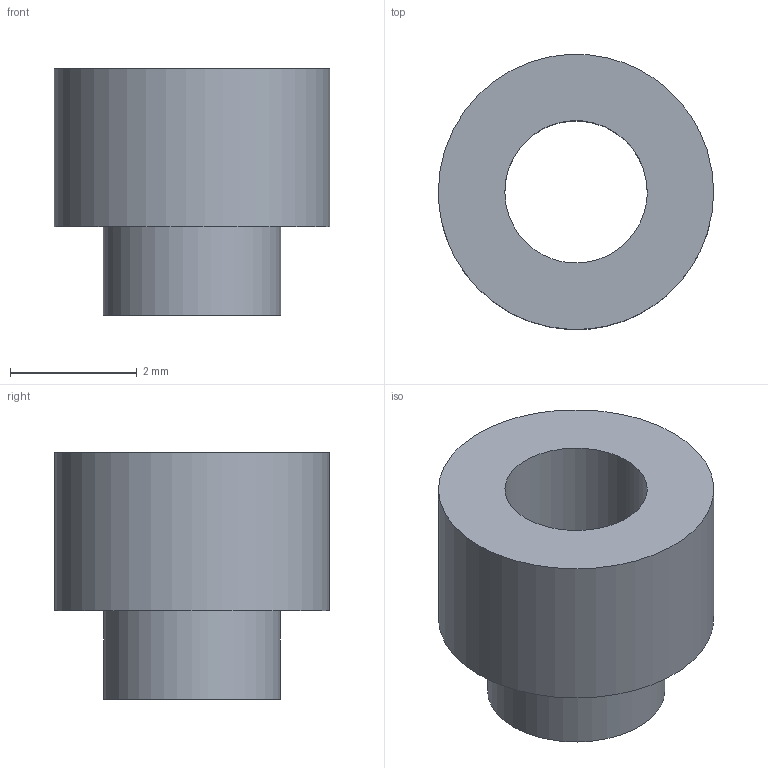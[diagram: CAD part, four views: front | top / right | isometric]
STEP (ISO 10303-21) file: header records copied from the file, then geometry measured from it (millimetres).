
FILE_DESCRIPTION(('FreeCAD Model'),'2;1');
FILE_NAME('Open CASCADE Shape Model','2026-03-20T17:23:06',('Author'),( ''),'Open CASCADE STEP processor 7.8','FreeCAD','Unknown');
FILE_SCHEMA(('AP242_MANAGED_MODEL_BASED_3D_ENGINEERING_MIM_LF. {1 0 10303 442 1 1 4 }'));
Length unit declared in the file: millimetre
Products named in the file (1): 1_transformed
Bounding box: 4.35 x 4.35 x 3.9 mm (x, y, z)
Volume: 30.5 mm3; surface area: 96 mm2
Topology: 1 solids, 1 shells, 6 faces, 9 edges, 6 vertices
Faces by surface type: bspline 6
Entity records: 201 total; most frequent: CARTESIAN_POINT 109, ORIENTED_EDGE 18, FACE_BOUND 9, EDGE_LOOP 9, EDGE_CURVE 9, ADVANCED_FACE 6, VERTEX_POINT 6, B_SPLINE_SURFACE_WITH_KNOTS 3
